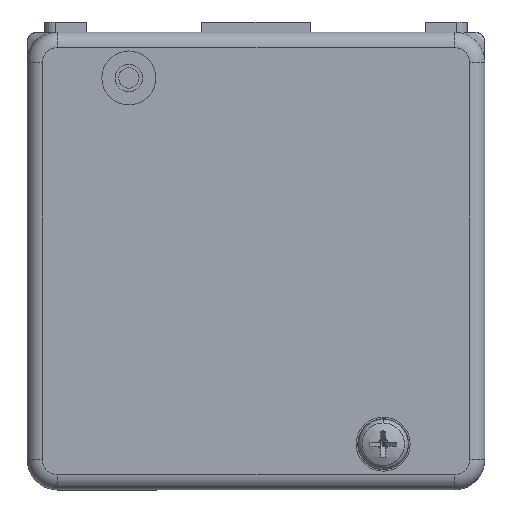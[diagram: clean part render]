
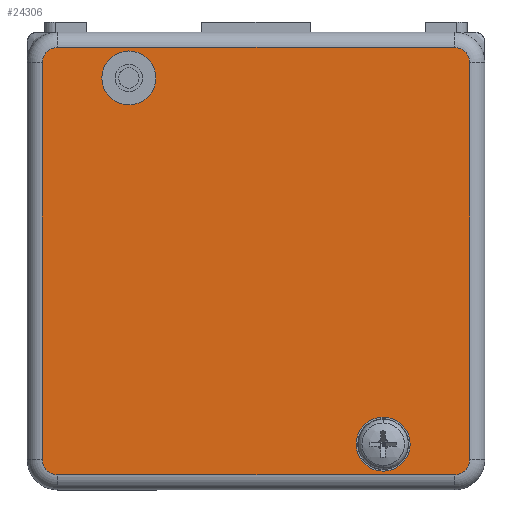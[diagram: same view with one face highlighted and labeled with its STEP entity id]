
A CAD part, left-side view. The second image highlights one B-rep face of the part: STEP entity #24306.
In plain terms, the highlighted planar face has unit normal (-1, 0, 0) as drawn and (0, 0, -1) by its records, which use the part's own axes.
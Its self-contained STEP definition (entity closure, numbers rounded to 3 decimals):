
#22383=CARTESIAN_POINT('',(15.65,10.0,-3.5));
#22384=VERTEX_POINT('',#22383);
#22393=CARTESIAN_POINT('',(10.35,10.0,-3.5));
#22394=VERTEX_POINT('',#22393);
#22395=CARTESIAN_POINT('',(13.0,10.0,-3.5));
#22396=DIRECTION('',(0.0,0.0,1.0));
#22397=DIRECTION('',(1.0,0.0,0.0));
#22398=AXIS2_PLACEMENT_3D('',#22395,#22396,#22397);
#22399=CIRCLE('',#22398,2.65);
#22400=EDGE_CURVE('',#22394,#22384,#22399,.T.);
#22467=CARTESIAN_POINT('',(-9.35,-26.,-3.5));
#22468=VERTEX_POINT('',#22467);
#22477=CARTESIAN_POINT('',(-14.65,-26.,-3.5));
#22478=VERTEX_POINT('',#22477);
#22479=CARTESIAN_POINT('',(-12.0,-26.,-3.5));
#22480=DIRECTION('',(0.0,0.0,1.0));
#22481=DIRECTION('',(1.0,0.0,0.0));
#22482=AXIS2_PLACEMENT_3D('',#22479,#22480,#22481);
#22483=CIRCLE('',#22482,2.65);
#22484=EDGE_CURVE('',#22478,#22468,#22483,.T.);
#23399=CARTESIAN_POINT('',(-12.0,-26.,-3.5));
#23400=DIRECTION('',(0.0,0.0,1.0));
#23401=DIRECTION('',(1.0,0.0,0.0));
#23402=AXIS2_PLACEMENT_3D('',#23399,#23400,#23401);
#23403=CIRCLE('',#23402,2.65);
#23404=EDGE_CURVE('',#22468,#22478,#23403,.T.);
#23461=CARTESIAN_POINT('',(13.0,10.0,-3.5));
#23462=DIRECTION('',(0.0,0.0,1.0));
#23463=DIRECTION('',(1.0,0.0,0.0));
#23464=AXIS2_PLACEMENT_3D('',#23461,#23462,#23463);
#23465=CIRCLE('',#23464,2.65);
#23466=EDGE_CURVE('',#22384,#22394,#23465,.T.);
#24047=CARTESIAN_POINT('',(20.0,13.0,-3.5));
#24048=VERTEX_POINT('',#24047);
#24056=CARTESIAN_POINT('',(-19.0,13.0,-3.5));
#24057=VERTEX_POINT('',#24056);
#24058=CARTESIAN_POINT('',(20.0,13.0,-3.5));
#24059=DIRECTION('',(-1.0,0.0,0.0));
#24060=VECTOR('',#24059,39.0);
#24061=LINE('',#24058,#24060);
#24062=EDGE_CURVE('',#24048,#24057,#24061,.T.);
#24087=CARTESIAN_POINT('',(21.5,11.5,-3.5));
#24088=VERTEX_POINT('',#24087);
#24096=CARTESIAN_POINT('',(20.0,11.5,-3.5));
#24097=DIRECTION('',(0.0,0.0,1.));
#24098=DIRECTION('',(0.707,0.707,0.0));
#24099=AXIS2_PLACEMENT_3D('',#24096,#24097,#24098);
#24100=CIRCLE('',#24099,1.5);
#24101=EDGE_CURVE('',#24088,#24048,#24100,.T.);
#24113=CARTESIAN_POINT('',(-20.5,11.5,-3.5));
#24114=VERTEX_POINT('',#24113);
#24132=CARTESIAN_POINT('',(-19.0,11.5,-3.5));
#24133=DIRECTION('',(0.0,0.0,1.));
#24134=DIRECTION('',(-0.707,0.707,0.0));
#24135=AXIS2_PLACEMENT_3D('',#24132,#24133,#24134);
#24136=CIRCLE('',#24135,1.5);
#24137=EDGE_CURVE('',#24057,#24114,#24136,.T.);
#24147=CARTESIAN_POINT('',(21.5,-27.5,-3.5));
#24148=VERTEX_POINT('',#24147);
#24156=CARTESIAN_POINT('',(21.5,-27.5,-3.5));
#24157=DIRECTION('',(0.0,1.0,0.0));
#24158=VECTOR('',#24157,39.0);
#24159=LINE('',#24156,#24158);
#24160=EDGE_CURVE('',#24148,#24088,#24159,.T.);
#24172=CARTESIAN_POINT('',(-20.5,-27.5,-3.5));
#24173=VERTEX_POINT('',#24172);
#24188=CARTESIAN_POINT('',(-20.5,11.5,-3.5));
#24189=DIRECTION('',(0.0,-1.0,0.0));
#24190=VECTOR('',#24189,39.0);
#24191=LINE('',#24188,#24190);
#24192=EDGE_CURVE('',#24114,#24173,#24191,.T.);
#24202=CARTESIAN_POINT('',(20.,-29.0,-3.5));
#24203=VERTEX_POINT('',#24202);
#24211=CARTESIAN_POINT('',(20.,-27.5,-3.5));
#24212=DIRECTION('',(0.0,0.0,1.));
#24213=DIRECTION('',(0.707,-0.707,0.0));
#24214=AXIS2_PLACEMENT_3D('',#24211,#24212,#24213);
#24215=CIRCLE('',#24214,1.5);
#24216=EDGE_CURVE('',#24203,#24148,#24215,.T.);
#24228=CARTESIAN_POINT('',(-19.0,-29.,-3.5));
#24229=VERTEX_POINT('',#24228);
#24239=CARTESIAN_POINT('',(-19.0,-27.5,-3.5));
#24240=DIRECTION('',(0.0,0.0,1.));
#24241=DIRECTION('',(-0.707,-0.707,0.0));
#24242=AXIS2_PLACEMENT_3D('',#24239,#24240,#24241);
#24243=CIRCLE('',#24242,1.5);
#24244=EDGE_CURVE('',#24173,#24229,#24243,.T.);
#24257=CARTESIAN_POINT('',(-19.0,-29.,-3.5));
#24258=DIRECTION('',(1.0,0.0,0.0));
#24259=VECTOR('',#24258,39.0);
#24260=LINE('',#24257,#24259);
#24261=EDGE_CURVE('',#24229,#24203,#24260,.T.);
#24283=CARTESIAN_POINT('',(0.,0.0,-3.5));
#24284=DIRECTION('',(0.0,0.0,1.0));
#24285=DIRECTION('',(1.0,0.0,0.0));
#24286=AXIS2_PLACEMENT_3D('',#24283,#24284,#24285);
#24287=PLANE('',#24286);
#24288=ORIENTED_EDGE('',*,*,#24062,.F.);
#24289=ORIENTED_EDGE('',*,*,#24101,.F.);
#24290=ORIENTED_EDGE('',*,*,#24160,.F.);
#24291=ORIENTED_EDGE('',*,*,#24216,.F.);
#24292=ORIENTED_EDGE('',*,*,#24261,.F.);
#24293=ORIENTED_EDGE('',*,*,#24244,.F.);
#24294=ORIENTED_EDGE('',*,*,#24192,.F.);
#24295=ORIENTED_EDGE('',*,*,#24137,.F.);
#24296=EDGE_LOOP('',(#24288,#24289,#24290,#24291,#24292,#24293,#24294,#24295));
#24297=FACE_OUTER_BOUND('',#24296,.T.);
#24298=ORIENTED_EDGE('',*,*,#23404,.T.);
#24299=ORIENTED_EDGE('',*,*,#22484,.T.);
#24300=EDGE_LOOP('',(#24298,#24299));
#24301=FACE_BOUND('',#24300,.T.);
#24302=ORIENTED_EDGE('',*,*,#23466,.T.);
#24303=ORIENTED_EDGE('',*,*,#22400,.T.);
#24304=EDGE_LOOP('',(#24302,#24303));
#24305=FACE_BOUND('',#24304,.T.);
#24306=ADVANCED_FACE('',(#24297,#24301,#24305),#24287,.F.);
